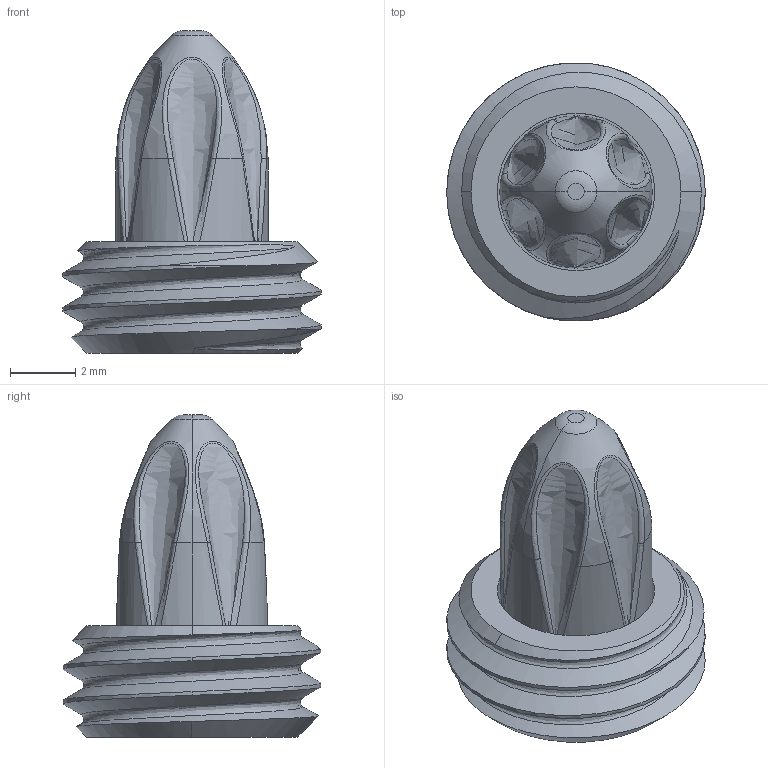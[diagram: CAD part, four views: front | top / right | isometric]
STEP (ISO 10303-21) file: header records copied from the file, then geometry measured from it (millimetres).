
FILE_DESCRIPTION (( 'STEP AP214' ), '1' );
FILE_NAME ('3DFSBA3120000A.STEP', '2021-03-31T17:46:27', ( '' ), ( '' ), 'SwSTEP 2.0', 'SolidWorks 2019', '' );
FILE_SCHEMA (( 'AUTOMOTIVE_DESIGN' ));
Length unit declared in the file: inch
Products named in the file (1): 3DFSBA3120000A
Bounding box: 7.94 x 7.92 x 9.91 mm (x, y, z)
Volume: 198.6 mm3; surface area: 300.4 mm2
Topology: 1 solids, 1 shells, 251 faces, 660 edges, 437 vertices
Faces by surface type: plane 122, bspline 107, cylinder 14, torus 4, cone 4
Entity records: 18225 total; most frequent: CARTESIAN_POINT 9876, ORIENTED_EDGE 1332, DIRECTION 765, EDGE_CURVE 666, VERTEX_POINT 443, VECTOR 373, LINE 373, EDGE_LOOP 277
